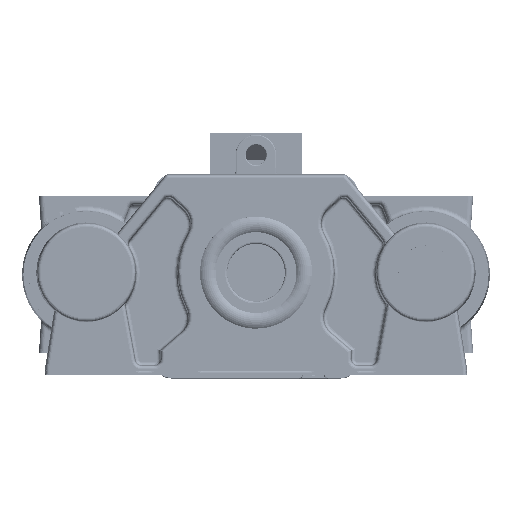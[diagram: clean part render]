
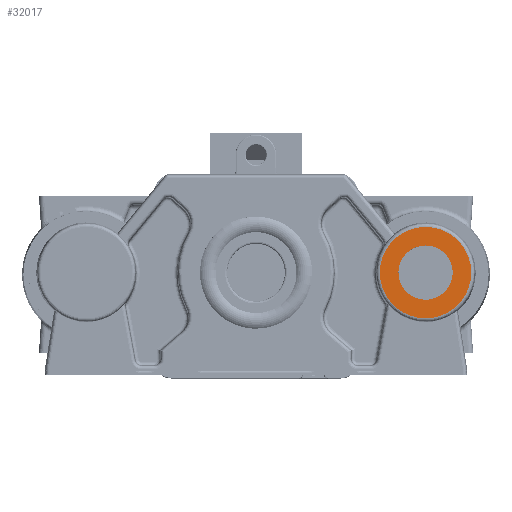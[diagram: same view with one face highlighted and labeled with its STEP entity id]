
A CAD part, top view. The second image highlights one B-rep face of the part: STEP entity #32017.
In plain terms, the highlighted planar face has unit normal (0, 0, 1).
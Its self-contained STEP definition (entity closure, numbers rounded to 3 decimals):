
#1431 = CARTESIAN_POINT ( 'NONE',  ( 50., 30., 13.5 ) ) ;
#1787 = EDGE_CURVE ( 'NONE', #139070, #67075, #77681, .T. ) ;
#21452 = EDGE_LOOP ( 'NONE', ( #111196, #51533 ) ) ;
#24599 = FACE_OUTER_BOUND ( 'NONE', #108027, .T. ) ;
#28664 = DIRECTION ( 'NONE',  ( 1., 0., 0. ) ) ;
#29007 = AXIS2_PLACEMENT_3D ( 'NONE', #57475, #48510, #82925 ) ;
#32017 = ADVANCED_FACE ( 'NONE', ( #24599, #124229 ), #103944, .T. ) ;
#32562 = DIRECTION ( 'NONE',  ( 0., 0., 1. ) ) ;
#32883 = DIRECTION ( 'NONE',  ( 1., 0., 0. ) ) ;
#45049 = DIRECTION ( 'NONE',  ( 0., 0., 1. ) ) ;
#46738 = CARTESIAN_POINT ( 'NONE',  ( 50., 30., 13.5 ) ) ;
#47076 = DIRECTION ( 'NONE',  ( 0., 0., 1. ) ) ;
#48510 = DIRECTION ( 'NONE',  ( 0., 0., 1. ) ) ;
#51533 = ORIENTED_EDGE ( 'NONE', *, *, #137400, .F. ) ;
#53867 = AXIS2_PLACEMENT_3D ( 'NONE', #1431, #47076, #32883 ) ;
#57475 = CARTESIAN_POINT ( 'NONE',  ( 50., 30., 13.5 ) ) ;
#60838 = EDGE_CURVE ( 'NONE', #67075, #139070, #127568, .T. ) ;
#61611 = DIRECTION ( 'NONE',  ( 0., 0., 1. ) ) ;
#67075 = VERTEX_POINT ( 'NONE', #111126 ) ;
#70283 = ORIENTED_EDGE ( 'NONE', *, *, #1787, .T. ) ;
#77681 = CIRCLE ( 'NONE', #80133, 13.472 ) ;
#78212 = DIRECTION ( 'NONE',  ( 1., 0., 0. ) ) ;
#80133 = AXIS2_PLACEMENT_3D ( 'NONE', #138562, #45049, #127364 ) ;
#81255 = CARTESIAN_POINT ( 'NONE',  ( 42., 30., 13.5 ) ) ;
#82925 = DIRECTION ( 'NONE',  ( 1., 0., 0. ) ) ;
#86978 = AXIS2_PLACEMENT_3D ( 'NONE', #46738, #32562, #78212 ) ;
#87967 = VERTEX_POINT ( 'NONE', #81255 ) ;
#94528 = AXIS2_PLACEMENT_3D ( 'NONE', #131224, #61611, #28664 ) ;
#99309 = CIRCLE ( 'NONE', #94528, 8. ) ;
#101054 = CARTESIAN_POINT ( 'NONE',  ( 63.472, 30., 13.5 ) ) ;
#103944 = PLANE ( 'NONE',  #53867 ) ;
#107285 = VERTEX_POINT ( 'NONE', #114475 ) ;
#108027 = EDGE_LOOP ( 'NONE', ( #70283, #128435 ) ) ;
#111126 = CARTESIAN_POINT ( 'NONE',  ( 36.528, 30., 13.5 ) ) ;
#111196 = ORIENTED_EDGE ( 'NONE', *, *, #117154, .F. ) ;
#114475 = CARTESIAN_POINT ( 'NONE',  ( 58., 30., 13.5 ) ) ;
#117154 = EDGE_CURVE ( 'NONE', #107285, #87967, #138958, .T. ) ;
#124229 = FACE_BOUND ( 'NONE', #21452, .T. ) ;
#127364 = DIRECTION ( 'NONE',  ( 1., 0., 0. ) ) ;
#127568 = CIRCLE ( 'NONE', #86978, 13.472 ) ;
#128435 = ORIENTED_EDGE ( 'NONE', *, *, #60838, .T. ) ;
#131224 = CARTESIAN_POINT ( 'NONE',  ( 50., 30., 13.5 ) ) ;
#137400 = EDGE_CURVE ( 'NONE', #87967, #107285, #99309, .T. ) ;
#138562 = CARTESIAN_POINT ( 'NONE',  ( 50., 30., 13.5 ) ) ;
#138958 = CIRCLE ( 'NONE', #29007, 8. ) ;
#139070 = VERTEX_POINT ( 'NONE', #101054 ) ;
